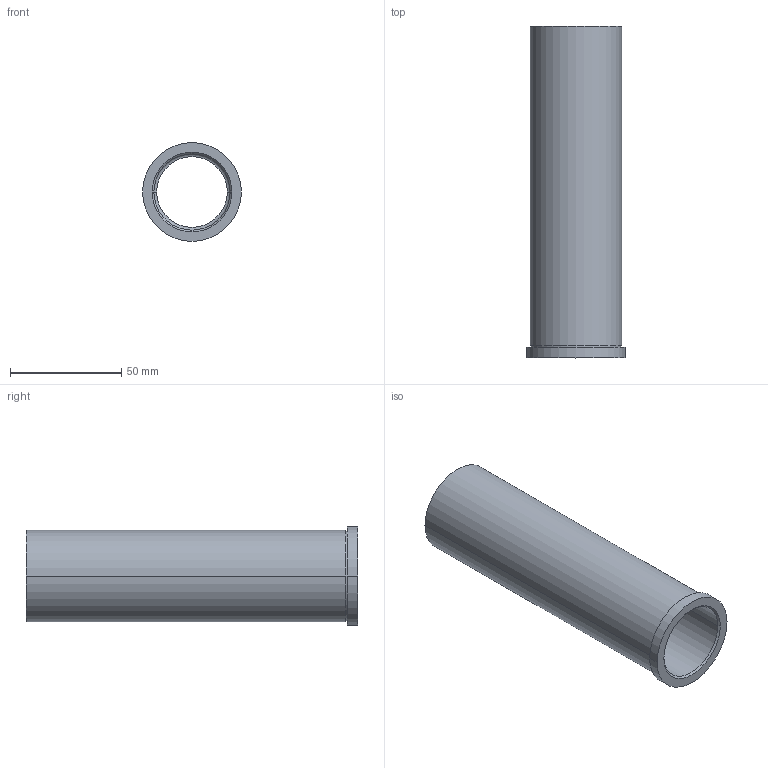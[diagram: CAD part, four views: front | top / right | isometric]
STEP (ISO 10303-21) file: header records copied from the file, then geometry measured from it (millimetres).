
FILE_DESCRIPTION (( 'STEP AP203' ), '1' );
FILE_NAME ('BU-409.step', '2014-02-27T03:06:26', ( '' ), ( '' ), 'SwSTEP 2.0', 'SolidWorks 2009', '' );
FILE_SCHEMA (( 'CONFIG_CONTROL_DESIGN' ));
Length unit declared in the file: inch
Products named in the file (1): BU-409
Bounding box: 44.45 x 149.22 x 44.45 mm (x, y, z)
Volume: 71166.9 mm3; surface area: 36451.3 mm2
Topology: 1 solids, 1 shells, 20 faces, 40 edges, 24 vertices
Faces by surface type: cylinder 10, torus 4, plane 4, cone 2
Entity records: 611 total; most frequent: DIRECTION 110, CARTESIAN_POINT 85, ORIENTED_EDGE 80, AXIS2_PLACEMENT_3D 49, EDGE_CURVE 40, CIRCLE 28, EDGE_LOOP 24, VERTEX_POINT 24
